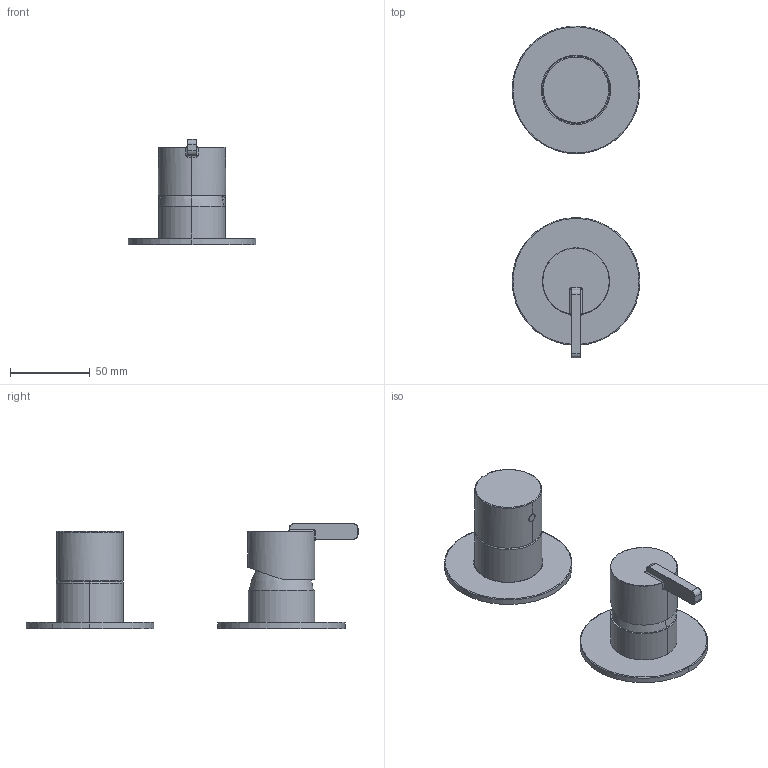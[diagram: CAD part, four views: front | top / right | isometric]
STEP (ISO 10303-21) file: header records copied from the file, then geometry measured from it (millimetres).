
FILE_DESCRIPTION (( 'STEP AP203' ), '1' );
FILE_NAME ('BQS_X44P - S.STEP', '2026-06-01T12:14:43', ( '' ), ( '' ), 'SwSTEP 2.0', 'SolidWorks 2018', '' );
FILE_SCHEMA (( 'CONFIG_CONTROL_DESIGN' ));
Length unit declared in the file: millimetre
Products named in the file (1): BQS_X44P - S
Bounding box: 80 x 207.95 x 65.8 mm (x, y, z)
Volume: 193338.9 mm3; surface area: 43726.8 mm2
Topology: 4 solids, 5 shells, 120 faces, 260 edges, 158 vertices
Faces by surface type: cylinder 54, plane 26, torus 24, bspline 11, cone 4, sphere 1
Entity records: 4575 total; most frequent: CARTESIAN_POINT 1884, DIRECTION 578, ORIENTED_EDGE 520, EDGE_CURVE 260, AXIS2_PLACEMENT_3D 250, VERTEX_POINT 158, CIRCLE 140, EDGE_LOOP 132
